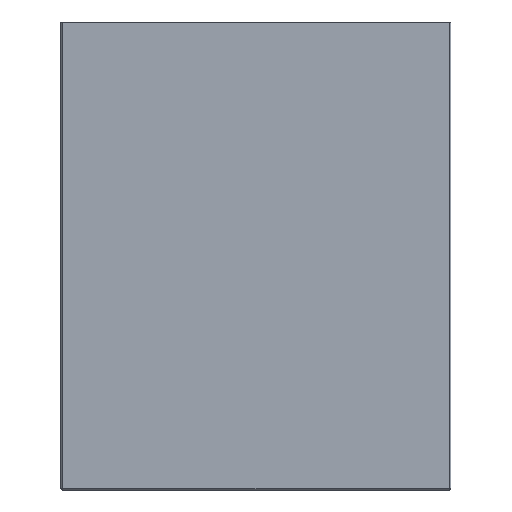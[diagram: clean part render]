
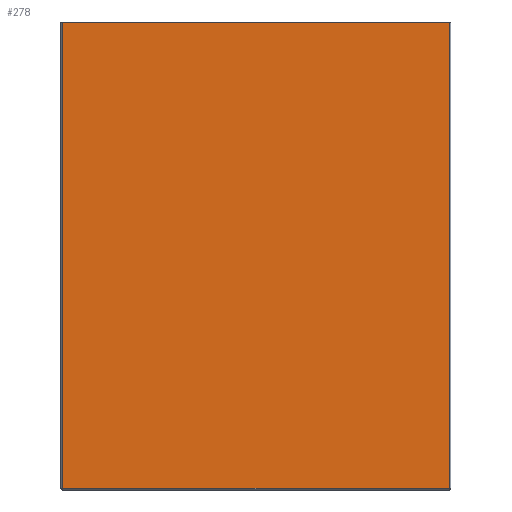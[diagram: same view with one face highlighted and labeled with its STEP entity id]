
A CAD part, front view. The second image highlights one B-rep face of the part: STEP entity #278.
In plain terms, the highlighted planar face has unit normal (0, -1, 0).
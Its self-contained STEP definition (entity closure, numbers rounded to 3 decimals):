
#258=AXIS2_PLACEMENT_3D('Plane Axis2P3D',#255,#256,#257) ;
#41=CARTESIAN_POINT('Vertex',(-398.,-200.,480.)) ;
#46=CARTESIAN_POINT('Line Origine',(-200.,-200.,480.)) ;
#50=CARTESIAN_POINT('Vertex',(-2.,-200.,480.)) ;
#212=CARTESIAN_POINT('Line Origine',(-2.,-200.,240.)) ;
#216=CARTESIAN_POINT('Vertex',(-2.,-200.,2.)) ;
#255=CARTESIAN_POINT('Axis2P3D Location',(0.,-200.,0.)) ;
#260=CARTESIAN_POINT('Line Origine',(-200.,-200.,2.)) ;
#264=CARTESIAN_POINT('Vertex',(-398.,-200.,2.)) ;
#267=CARTESIAN_POINT('Line Origine',(-398.,-200.,241.)) ;
#47=DIRECTION('Vector Direction',(1.,0.,0.)) ;
#213=DIRECTION('Vector Direction',(0.,0.,-1.)) ;
#256=DIRECTION('Axis2P3D Direction',(0.,1.,-0.)) ;
#257=DIRECTION('Axis2P3D XDirection',(-1.,0.,0.)) ;
#261=DIRECTION('Vector Direction',(-1.,0.,0.)) ;
#268=DIRECTION('Vector Direction',(0.,0.,1.)) ;
#48=VECTOR('Line Direction',#47,1.) ;
#214=VECTOR('Line Direction',#213,1.) ;
#262=VECTOR('Line Direction',#261,1.) ;
#269=VECTOR('Line Direction',#268,1.) ;
#273=ORIENTED_EDGE('',*,*,#266,.T.) ;
#274=ORIENTED_EDGE('',*,*,#218,.F.) ;
#275=ORIENTED_EDGE('',*,*,#52,.F.) ;
#276=ORIENTED_EDGE('',*,*,#271,.F.) ;
#278=ADVANCED_FACE('STRUTTURA',(#277),#259,.F.) ;
#52=EDGE_CURVE('',#42,#51,#49,.T.) ;
#218=EDGE_CURVE('',#51,#217,#215,.T.) ;
#266=EDGE_CURVE('',#265,#217,#263,.F.) ;
#271=EDGE_CURVE('',#265,#42,#270,.T.) ;
#272=EDGE_LOOP('',(#273,#274,#275,#276)) ;
#277=FACE_OUTER_BOUND('',#272,.T.) ;
#49=LINE('Line',#46,#48) ;
#215=LINE('Line',#212,#214) ;
#263=LINE('Line',#260,#262) ;
#270=LINE('Line',#267,#269) ;
#259=PLANE('Plane',#258) ;
#42=VERTEX_POINT('',#41) ;
#51=VERTEX_POINT('',#50) ;
#217=VERTEX_POINT('',#216) ;
#265=VERTEX_POINT('',#264) ;
